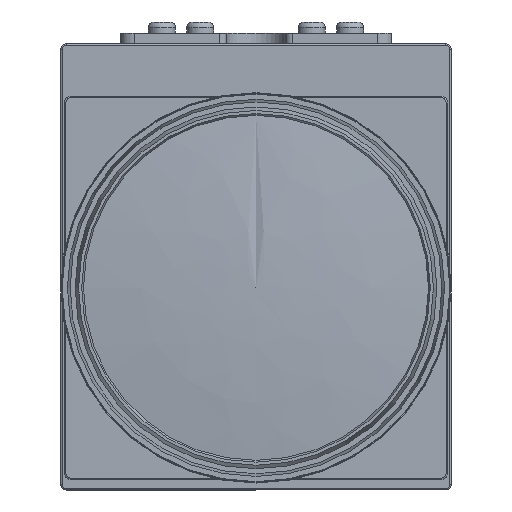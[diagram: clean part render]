
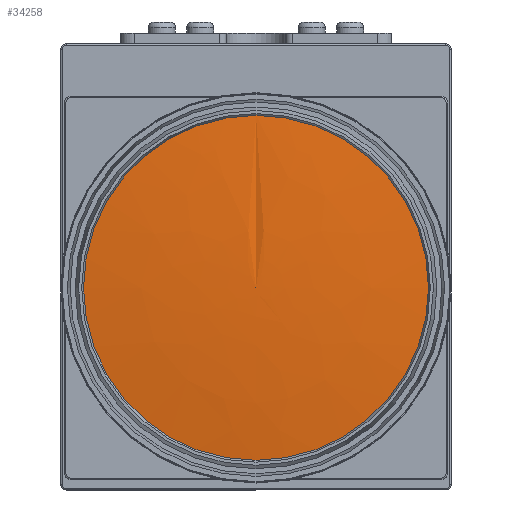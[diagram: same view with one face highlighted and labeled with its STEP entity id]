
A CAD part, left-side view. The second image highlights one B-rep face of the part: STEP entity #34258.
In plain terms, the highlighted free-form (B-spline) face has degree [3, 3] with [4, 7] control points.
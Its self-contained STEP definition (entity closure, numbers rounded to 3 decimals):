
#34258 = ADVANCED_FACE( '', ( #62849, #62850 ), #62851, .T. );
#62849 = FACE_BOUND( '', #91906, .T. );
#62850 = FACE_OUTER_BOUND( '', #91907, .T. );
#62851 = ( BOUNDED_SURFACE(  )B_SPLINE_SURFACE( 3, 3, ( ( #91910, #91911, #91912, #91913, #91914, #91915, #91916 ), ( #91917, #91918, #91919, #91920, #91921, #91922, #91923 ), ( #91924, #91925, #91926, #91927, #91928, #91929, #91930 ), ( #91931, #91932, #91933, #91934, #91935, #91936, #91937 ) ), .UNSPECIFIED., .F., .T., .F. )B_SPLINE_SURFACE_WITH_KNOTS( ( 4, 4 ), ( 4, 3, 4 ), ( 0., 6.283 ), ( -1.574, -1.517, -1.461 ), .UNSPECIFIED. )GEOMETRIC_REPRESENTATION_ITEM(  )RATIONAL_B_SPLINE_SURFACE( ( ( 1., 0.333, 0.333, 1., 0.333, 0.333, 1. ), ( 0.999, 0.333, 0.333, 0.999, 0.333, 0.333, 0.999 ), ( 0.999, 0.333, 0.333, 0.999, 0.333, 0.333, 0.999 ), ( 1., 0.333, 0.333, 1., 0.333, 0.333, 1. ) ) )REPRESENTATION_ITEM( '' )SURFACE(  ) );
#91906 = VERTEX_LOOP( '', #146011 );
#91907 = EDGE_LOOP( '', ( #146012 ) );
#91910 = CARTESIAN_POINT( '', ( 68.328, 0., 53.746 ) );
#91911 = CARTESIAN_POINT( '', ( 68.328, 49.492, 53.746 ) );
#91912 = CARTESIAN_POINT( '', ( 68.328, 49.492, 4.254 ) );
#91913 = CARTESIAN_POINT( '', ( 68.328, 0., 4.254 ) );
#91914 = CARTESIAN_POINT( '', ( 68.328, -49.492, 4.254 ) );
#91915 = CARTESIAN_POINT( '', ( 68.328, -49.492, 53.746 ) );
#91916 = CARTESIAN_POINT( '', ( 68.328, 0., 53.746 ) );
#91917 = CARTESIAN_POINT( '', ( 69.237, 0., 45.527 ) );
#91918 = CARTESIAN_POINT( '', ( 69.237, 33.053, 45.527 ) );
#91919 = CARTESIAN_POINT( '', ( 69.237, 33.053, 12.473 ) );
#91920 = CARTESIAN_POINT( '', ( 69.237, 0., 12.473 ) );
#91921 = CARTESIAN_POINT( '', ( 69.237, -33.053, 12.473 ) );
#91922 = CARTESIAN_POINT( '', ( 69.237, -33.053, 45.527 ) );
#91923 = CARTESIAN_POINT( '', ( 69.237, 0., 45.527 ) );
#91924 = CARTESIAN_POINT( '', ( 69.678, 0., 37.269 ) );
#91925 = CARTESIAN_POINT( '', ( 69.678, 16.538, 37.269 ) );
#91926 = CARTESIAN_POINT( '', ( 69.678, 16.538, 20.731 ) );
#91927 = CARTESIAN_POINT( '', ( 69.678, 0., 20.731 ) );
#91928 = CARTESIAN_POINT( '', ( 69.678, -16.538, 20.731 ) );
#91929 = CARTESIAN_POINT( '', ( 69.678, -16.538, 37.269 ) );
#91930 = CARTESIAN_POINT( '', ( 69.678, 0., 37.269 ) );
#91931 = CARTESIAN_POINT( '', ( 69.65, 0., 29. ) );
#91932 = CARTESIAN_POINT( '', ( 69.65, 0., 29. ) );
#91933 = CARTESIAN_POINT( '', ( 69.65, 0., 29. ) );
#91934 = CARTESIAN_POINT( '', ( 69.65, 0., 29. ) );
#91935 = CARTESIAN_POINT( '', ( 69.65, 0., 29. ) );
#91936 = CARTESIAN_POINT( '', ( 69.65, 0., 29. ) );
#91937 = CARTESIAN_POINT( '', ( 69.65, 0., 29. ) );
#146011 = VERTEX_POINT( '', #171998 );
#146012 = ORIENTED_EDGE( '', *, *, #170529, .F. );
#170529 = EDGE_CURVE( '', #200387, #200387, #200388, .T. );
#171998 = CARTESIAN_POINT( '', ( 69.65, 0., 29. ) );
#200387 = VERTEX_POINT( '', #244604 );
#200388 = CIRCLE( '', #244605, 24.746 );
#244604 = CARTESIAN_POINT( '', ( 68.328, 0., 53.746 ) );
#244605 = AXIS2_PLACEMENT_3D( '', #265088, #265089, #265090 );
#265088 = CARTESIAN_POINT( '', ( 68.328, 0., 29. ) );
#265089 = DIRECTION( '', ( -1., 0., 0. ) );
#265090 = DIRECTION( '', ( 0., 0., 1. ) );
